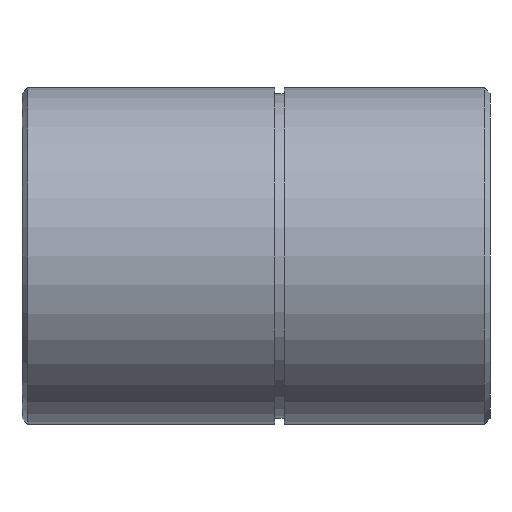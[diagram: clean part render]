
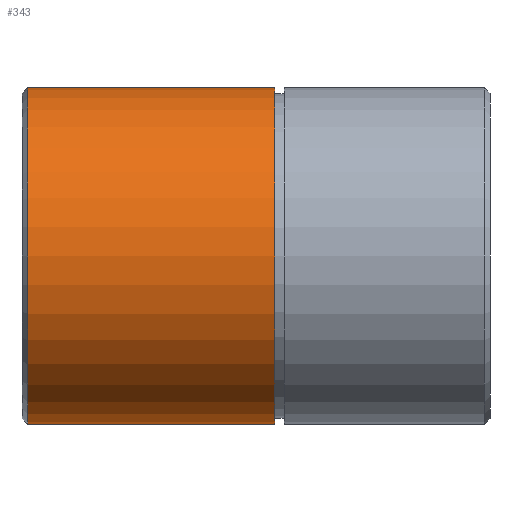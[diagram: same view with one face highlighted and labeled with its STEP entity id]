
A CAD part, left-side view. The second image highlights one B-rep face of the part: STEP entity #343.
In plain terms, the highlighted cylindrical face has radius 9 mm (diameter 18 mm), a partial arc.
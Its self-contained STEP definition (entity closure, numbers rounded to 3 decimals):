
#10 = FACE_OUTER_BOUND ( 'NONE', #666, .T. ) ;
#27 = CYLINDRICAL_SURFACE ( 'NONE', #115, 9. ) ;
#44 = ORIENTED_EDGE ( 'NONE', *, *, #574, .T. ) ;
#112 = DIRECTION ( 'NONE',  ( 0., -1., 0. ) ) ;
#113 = CARTESIAN_POINT ( 'NONE',  ( 0., 24.7, 9. ) ) ;
#115 = AXIS2_PLACEMENT_3D ( 'NONE', #233, #289, #507 ) ;
#145 = EDGE_CURVE ( 'NONE', #502, #397, #569, .T. ) ;
#179 = CARTESIAN_POINT ( 'NONE',  ( 0., 11.5, 9. ) ) ;
#189 = DIRECTION ( 'NONE',  ( 0., -1., 0. ) ) ;
#233 = CARTESIAN_POINT ( 'NONE',  ( 0., 0., 0. ) ) ;
#289 = DIRECTION ( 'NONE',  ( 0., -1., 0. ) ) ;
#300 = VERTEX_POINT ( 'NONE', #113 ) ;
#309 = EDGE_CURVE ( 'NONE', #300, #502, #380, .T. ) ;
#311 = DIRECTION ( 'NONE',  ( 0., 0., -1. ) ) ;
#322 = ORIENTED_EDGE ( 'NONE', *, *, #145, .F. ) ;
#332 = LINE ( 'NONE', #358, #610 ) ;
#343 = ADVANCED_FACE ( 'NONE', ( #10 ), #27, .T. ) ;
#358 = CARTESIAN_POINT ( 'NONE',  ( 0., 0., -9. ) ) ;
#363 = CARTESIAN_POINT ( 'NONE',  ( 0., 24.7, -9. ) ) ;
#372 = ORIENTED_EDGE ( 'NONE', *, *, #309, .F. ) ;
#379 = DIRECTION ( 'NONE',  ( 0., 0., -1. ) ) ;
#380 = LINE ( 'NONE', #621, #508 ) ;
#397 = VERTEX_POINT ( 'NONE', #510 ) ;
#401 = CIRCLE ( 'NONE', #435, 9. ) ;
#413 = DIRECTION ( 'NONE',  ( 0., -1., 0. ) ) ;
#435 = AXIS2_PLACEMENT_3D ( 'NONE', #581, #413, #311 ) ;
#497 = ORIENTED_EDGE ( 'NONE', *, *, #699, .T. ) ;
#502 = VERTEX_POINT ( 'NONE', #179 ) ;
#507 = DIRECTION ( 'NONE',  ( 0., 0., -1. ) ) ;
#508 = VECTOR ( 'NONE', #112, 1000. ) ;
#510 = CARTESIAN_POINT ( 'NONE',  ( 0., 11.5, -9. ) ) ;
#556 = DIRECTION ( 'NONE',  ( 0., -1., 0. ) ) ;
#560 = CARTESIAN_POINT ( 'NONE',  ( 0., 11.5, 0. ) ) ;
#569 = CIRCLE ( 'NONE', #649, 9. ) ;
#574 = EDGE_CURVE ( 'NONE', #300, #635, #401, .T. ) ;
#581 = CARTESIAN_POINT ( 'NONE',  ( 0., 24.7, 0. ) ) ;
#610 = VECTOR ( 'NONE', #189, 1000. ) ;
#621 = CARTESIAN_POINT ( 'NONE',  ( 0., 0., 9. ) ) ;
#635 = VERTEX_POINT ( 'NONE', #363 ) ;
#649 = AXIS2_PLACEMENT_3D ( 'NONE', #560, #556, #379 ) ;
#666 = EDGE_LOOP ( 'NONE', ( #372, #44, #497, #322 ) ) ;
#699 = EDGE_CURVE ( 'NONE', #635, #397, #332, .T. ) ;
